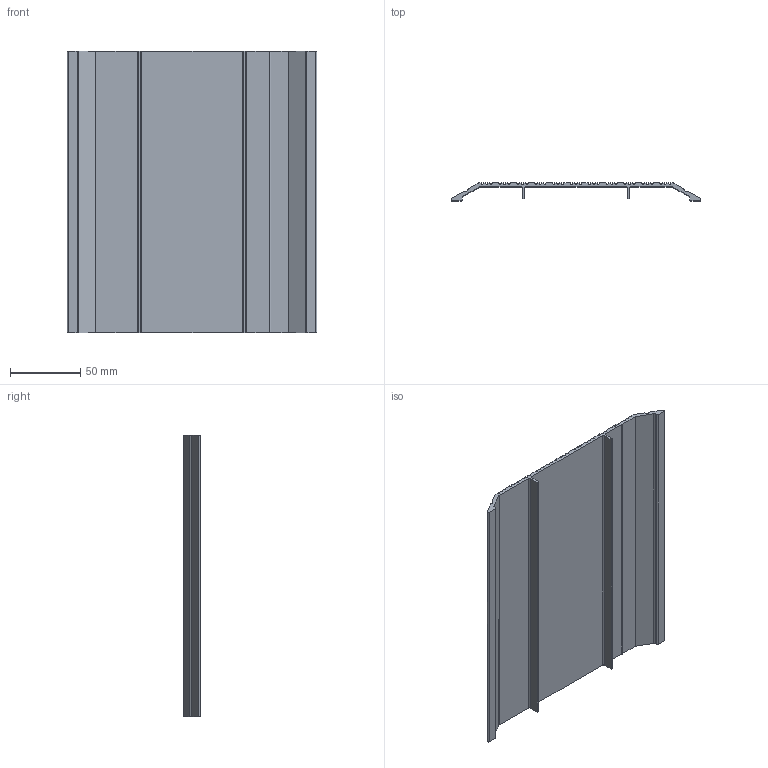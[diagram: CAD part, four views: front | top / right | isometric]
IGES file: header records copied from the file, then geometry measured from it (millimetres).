
Global section: file name: No Iges File Name specified; native system: Autodesk Inventor 2012; preprocessor: AutoDesk Inventor Iges Exporter R2012; author: anna.b; date: 20130614.100942; units: millimetre
Bounding box: 177.8 x 12.5 x 200 mm (x, y, z)
Volume: 99852.3 mm3; surface area: 88434 mm2
Topology: 1 solids, 1 shells, 112 faces, 330 edges, 220 vertices
Faces by surface type: plane 57, revolution 43, cylinder 12
